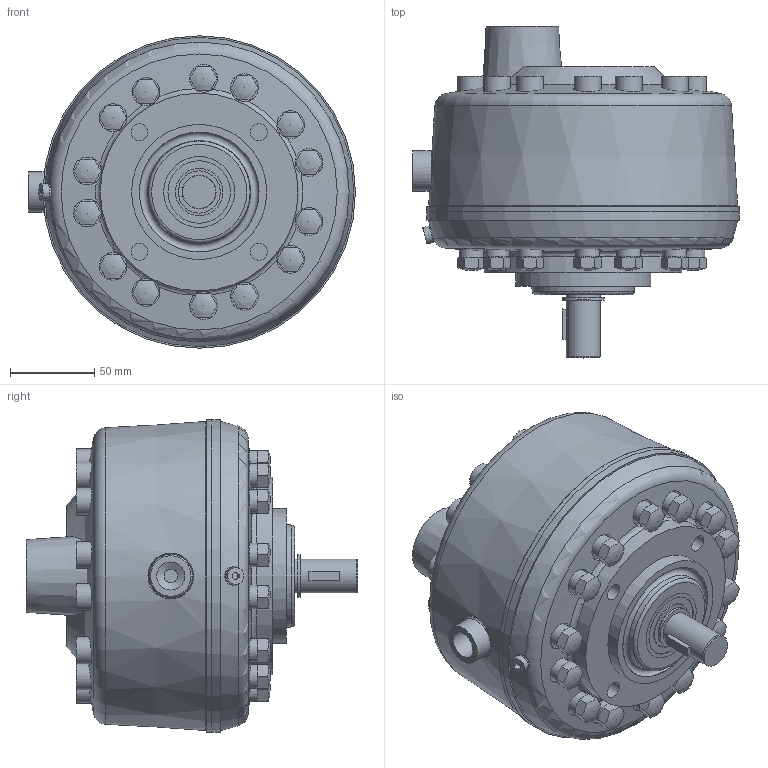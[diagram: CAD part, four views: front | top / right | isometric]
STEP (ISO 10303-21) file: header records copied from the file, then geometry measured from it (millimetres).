
FILE_DESCRIPTION( ( 'STEP AP214' ), '1' );
FILE_NAME( '//HAWE-GROUP.COM/HOME01/KohlhaufM/3D Komponenten/HAWE-R-Pumpe-11,6.stp', '2019-03-13T14:10:56', ( '' ), ( '' ), ' ', 'PARTsolutions', ' ' );
FILE_SCHEMA( ( 'AUTOMOTIVE_DESIGN { 1 0 10303 214 1 1 1 1 }' ) );
Length unit declared in the file: millimetre
Products named in the file (9): 21977167 HAWE 6012-14-Zy-1DA_1g; _HAWE 6012-14-Zy-1DA_1g; _HAWE ZylSc DIN4762 M10x100; _HAWE LagSc-7Zyl; _HAWE Wellendichtring-B1-20x42x7-DIN3760; _HAWE Welle-6012009/1; _HAWE Hutmutter-6010010; _HAWE M6x6_zs_usr_m6; _HAWE SamPl-6012 003
Assembly tree (34 placements, depth 2):
  21977167 HAWE 6012-14-Zy-1DA_1g
    _HAWE 6012-14-Zy-1DA_1g
    _HAWE ZylSc DIN4762 M10x100  x14
    _HAWE LagSc-7Zyl
    _HAWE Wellendichtring-B1-20x42x7-DIN3760
    _HAWE Welle-6012009/1
    _HAWE Hutmutter-6010010  x14
    _HAWE M6x6_zs_usr_m6
    _HAWE SamPl-6012 003
Bounding box: 193.5 x 196.5 x 185 mm (x, y, z)
Volume: 1018756.7 mm3; surface area: 368577.6 mm2
Topology: 34 solids, 34 shells, 684 faces, 1551 edges, 1011 vertices
Faces by surface type: plane 357, cylinder 184, cone 107, torus 22, sphere 14
Full cylindrical faces by diameter (mm): 3 x2, 5 x2, 6 x9, 8 x1, 10 x33, 10.2 x1, 10.5 x28, 10.6 x14, 11 x1, 14 x14, 16 x14, 16.5 x28, 16.66 x1, 20 x3, 21 x1, 22 x2, 24 x1, 25 x1, 25.7 x2, 26 x2, 28 x1, 33.25 x1, 37 x1, 40 x1, 42 x2, 72 x2, 80 x1, 106 x1, 117 x1, 152 x1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
Entity records: 13931 total; most frequent: CARTESIAN_POINT 4828, DIRECTION 1384, ORIENTED_EDGE 1002, AXIS2_PLACEMENT_3D 658, EDGE_LOOP 627, EDGE_CURVE 501, FACE_OUTER_BOUND 443, VERTEX_POINT 419
